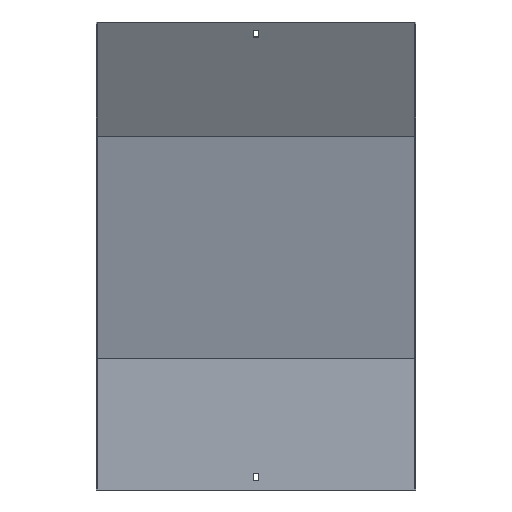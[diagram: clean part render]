
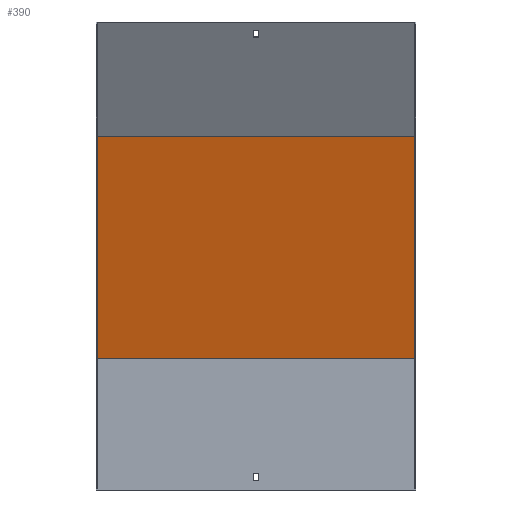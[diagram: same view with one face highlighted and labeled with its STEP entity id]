
A CAD part, front view. The second image highlights one B-rep face of the part: STEP entity #390.
In plain terms, the highlighted planar face has unit normal (0, -0.966, -0.259).
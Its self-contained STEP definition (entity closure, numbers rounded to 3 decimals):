
#4 = VECTOR ( 'NONE', #483, 1000. ) ;
#6 = CARTESIAN_POINT ( 'NONE',  ( 201.5, 18.5, 165.436 ) ) ;
#99 = DIRECTION ( 'NONE',  ( 0., -0.259, 0.966 ) ) ;
#102 = ORIENTED_EDGE ( 'NONE', *, *, #355, .T. ) ;
#196 = VECTOR ( 'NONE', #216, 1000. ) ;
#201 = EDGE_CURVE ( 'NONE', #291, #473, #680, .T. ) ;
#216 = DIRECTION ( 'NONE',  ( -1., 0., 0. ) ) ;
#271 = VECTOR ( 'NONE', #99, 1000. ) ;
#286 = CARTESIAN_POINT ( 'NONE',  ( 201.5, -56.524, 445.43 ) ) ;
#291 = VERTEX_POINT ( 'NONE', #847 ) ;
#304 = CARTESIAN_POINT ( 'NONE',  ( -200., 58.62, 15.707 ) ) ;
#306 = LINE ( 'NONE', #778, #271 ) ;
#333 = AXIS2_PLACEMENT_3D ( 'NONE', #597, #584, #809 ) ;
#336 = LINE ( 'NONE', #6, #703 ) ;
#338 = ORIENTED_EDGE ( 'NONE', *, *, #389, .F. ) ;
#340 = FACE_OUTER_BOUND ( 'NONE', #415, .T. ) ;
#346 = VERTEX_POINT ( 'NONE', #435 ) ;
#355 = EDGE_CURVE ( 'NONE', #346, #291, #306, .T. ) ;
#389 = EDGE_CURVE ( 'NONE', #346, #555, #336, .T. ) ;
#390 = ADVANCED_FACE ( 'NONE', ( #340 ), #855, .T. ) ;
#415 = EDGE_LOOP ( 'NONE', ( #815, #338, #102, #801 ) ) ;
#435 = CARTESIAN_POINT ( 'NONE',  ( 200., 18.5, 165.436 ) ) ;
#473 = VERTEX_POINT ( 'NONE', #674 ) ;
#483 = DIRECTION ( 'NONE',  ( 0., -0.259, 0.966 ) ) ;
#510 = EDGE_CURVE ( 'NONE', #555, #473, #691, .T. ) ;
#555 = VERTEX_POINT ( 'NONE', #832 ) ;
#584 = DIRECTION ( 'NONE',  ( 0., -0.966, -0.259 ) ) ;
#597 = CARTESIAN_POINT ( 'NONE',  ( 201.5, 17.87, 167.788 ) ) ;
#674 = CARTESIAN_POINT ( 'NONE',  ( -200., -56.524, 445.43 ) ) ;
#680 = LINE ( 'NONE', #286, #196 ) ;
#691 = LINE ( 'NONE', #304, #4 ) ;
#703 = VECTOR ( 'NONE', #804, 1000. ) ;
#778 = CARTESIAN_POINT ( 'NONE',  ( 200., 58.62, 15.707 ) ) ;
#801 = ORIENTED_EDGE ( 'NONE', *, *, #201, .T. ) ;
#804 = DIRECTION ( 'NONE',  ( -1., 0., 0. ) ) ;
#809 = DIRECTION ( 'NONE',  ( 0., 0.259, -0.966 ) ) ;
#815 = ORIENTED_EDGE ( 'NONE', *, *, #510, .F. ) ;
#832 = CARTESIAN_POINT ( 'NONE',  ( -200., 18.5, 165.436 ) ) ;
#847 = CARTESIAN_POINT ( 'NONE',  ( 200., -56.524, 445.43 ) ) ;
#855 = PLANE ( 'NONE',  #333 ) ;
